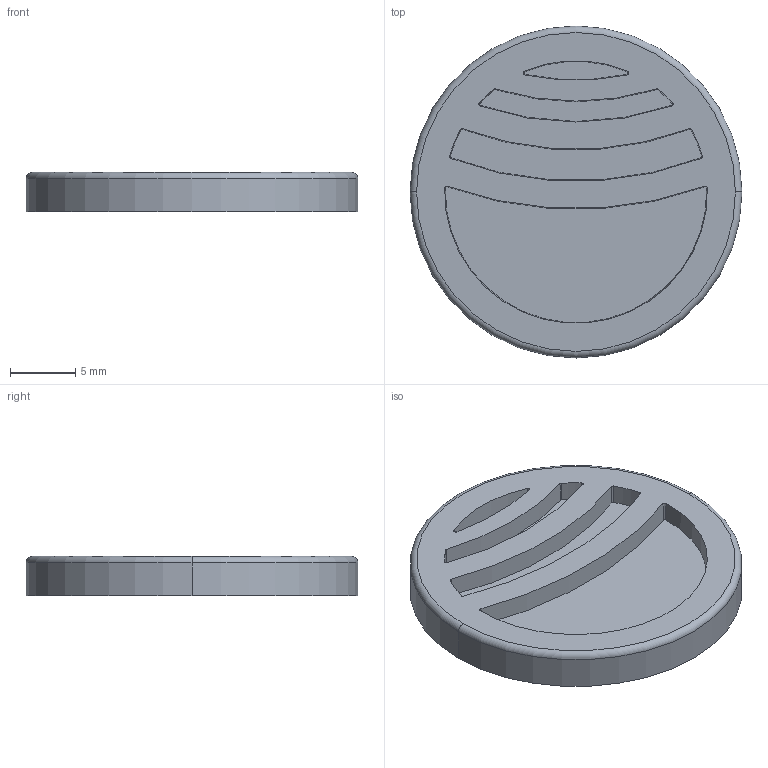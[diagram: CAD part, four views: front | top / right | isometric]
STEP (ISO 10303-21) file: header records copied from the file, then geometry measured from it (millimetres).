
FILE_DESCRIPTION((''),'2;1');
FILE_NAME('RANK3','2015-05-15T',('Daniel'),(''),'PRO/ENGINEER BY PARAMETRIC TECHNOLOGY CORPORATION, 2014000','PRO/ENGINEER BY PARAMETRIC TECHNOLOGY CORPORATION, 2014000','');
FILE_SCHEMA(('CONFIG_CONTROL_DESIGN'));
Length unit declared in the file: millimetre
Products named in the file (1): RANK3
Bounding box: 25.4 x 25.4 x 3 mm (x, y, z)
Volume: 1187.2 mm3; surface area: 1442.5 mm2
Topology: 1 solids, 1 shells, 34 faces, 82 edges, 54 vertices
Faces by surface type: cone 24, plane 6, torus 2, cylinder 2
Entity records: 1064 total; most frequent: DIRECTION 206, CARTESIAN_POINT 170, ORIENTED_EDGE 164, AXIS2_PLACEMENT_3D 90, EDGE_CURVE 82, CIRCLE 56, VERTEX_POINT 54, EDGE_LOOP 38
